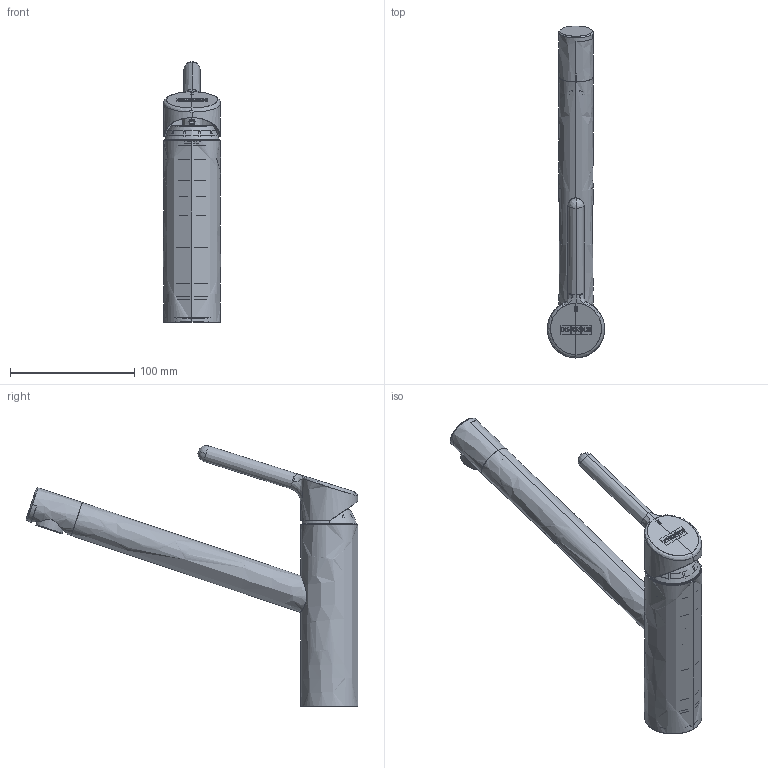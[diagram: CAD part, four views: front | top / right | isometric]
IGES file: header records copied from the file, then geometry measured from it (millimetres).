
Global section: file name: F:\_CONVERSIONE_CAD_2024_2025\03_3D kits new\08_Taps\Orbit\3D001_Taps_Orbit_Swivel\3D001_Taps_Orbit_Swivel.igs; native system: Rhinoceros ( Jan  9 2024 ); preprocessor: Trout Lake IGES 012 Jan  9 2024; date: 240131.140147; units: millimetre
Bounding box: 46 x 266.73 x 209.88 mm (x, y, z)
Surface area: 125869 mm2 (no closed solid volume)
Topology: 0 solids, 0 shells, 1139 faces, 6824 edges, 6810 vertices
Faces by surface type: bspline 1139
